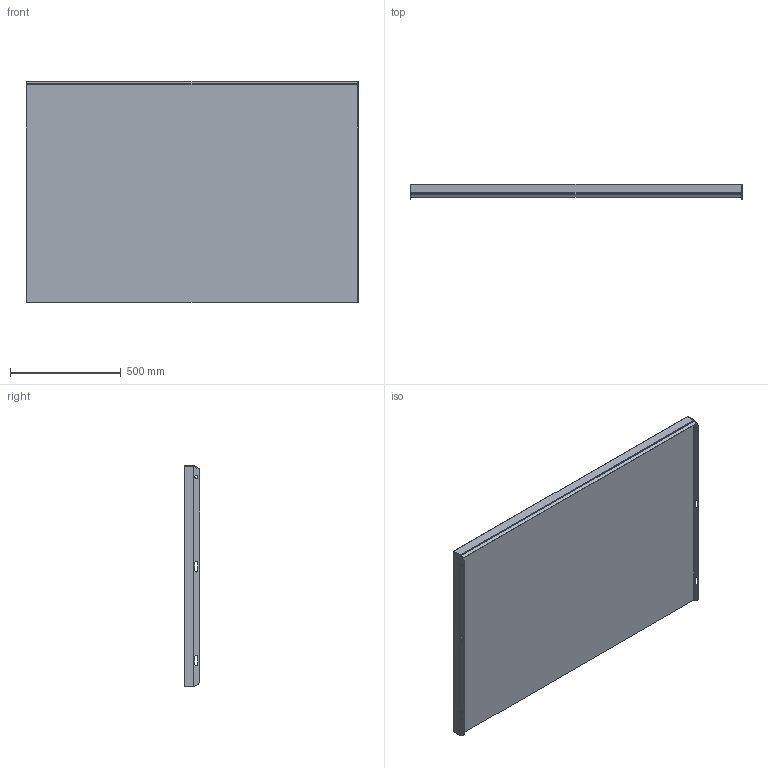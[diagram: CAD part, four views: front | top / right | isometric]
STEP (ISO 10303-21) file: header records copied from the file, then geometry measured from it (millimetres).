
FILE_DESCRIPTION (( 'STEP AP203' ), '1' );
FILE_NAME ('148815101, Plan TH6, 1500x1000, vfz.STEP', '2020-10-21T13:21:47', ( '' ), ( '' ), 'SwSTEP 2.0', 'SolidWorks 2019', '' );
FILE_SCHEMA (( 'CONFIG_CONTROL_DESIGN' ));
Length unit declared in the file: millimetre
Products named in the file (4): 148815101, Plan TH6, 1500x1000, vfz; SW0000041407; SW0000041808; SW0000041757
Assembly tree (4 placements, depth 2):
  148815101, Plan TH6, 1500x1000, vfz
    SW0000041808
    SW0000041407  x2
    SW0000041757
Bounding box: 1500 x 70 x 997 mm (x, y, z)
Volume: 60078304 mm3; surface area: 3644129.2 mm2
Topology: 4 solids, 4 shells, 69 faces, 172 edges, 112 vertices
Faces by surface type: plane 49, cylinder 20
Entity records: 1868 total; most frequent: DIRECTION 252, CARTESIAN_POINT 250, ORIENTED_EDGE 236, EDGE_CURVE 118, LINE 96, VECTOR 96, AXIS2_PLACEMENT_3D 78, VERTEX_POINT 76
